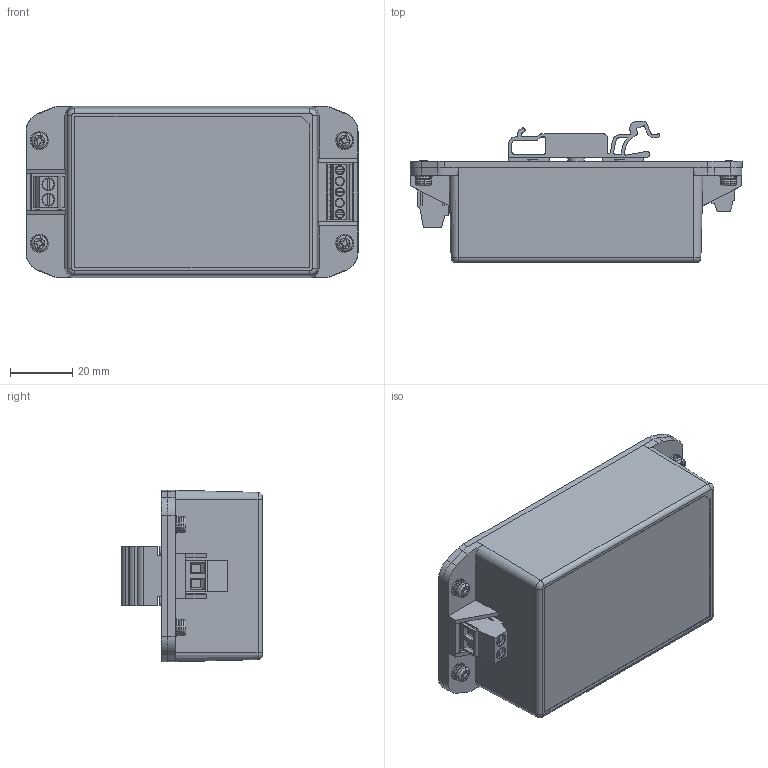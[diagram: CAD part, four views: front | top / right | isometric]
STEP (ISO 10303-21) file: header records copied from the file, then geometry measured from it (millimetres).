
FILE_DESCRIPTION (( 'STEP AP203' ), '1' );
FILE_NAME ('CFM70SXXX-SD成品圖(V1.3)-1111013.STEP', '2023-11-24T06:33:18', ( 'cincon' ), ( '' ), 'SwSTEP 2.0', 'SolidWorks 2020', '' );
FILE_SCHEMA (( 'CONFIG_CONTROL_DESIGN' ));
Length unit declared in the file: millimetre
Products named in the file (1): CFM70SXXX-SD成品圖(V1.3)-1111013
Bounding box: 106.58 x 45.3 x 55.2 mm (x, y, z)
Volume: 53919.6 mm3; surface area: 58684.2 mm2
Topology: 6 solids, 16 shells, 1581 faces, 4289 edges, 2806 vertices
Faces by surface type: plane 930, cylinder 402, bspline 102, cone 97, torus 50
Entity records: 64498 total; most frequent: CARTESIAN_POINT 25611, ORIENTED_EDGE 8578, DIRECTION 7415, EDGE_CURVE 4289, VERTEX_POINT 2806, LINE 2795, VECTOR 2795, AXIS2_PLACEMENT_3D 2310
